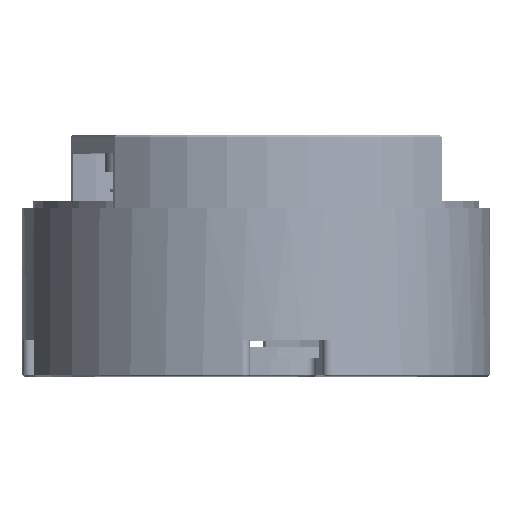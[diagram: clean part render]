
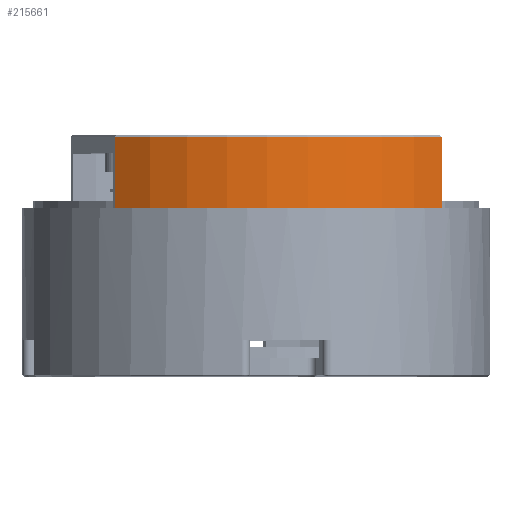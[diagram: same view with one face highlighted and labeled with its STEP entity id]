
A CAD part, top view. The second image highlights one B-rep face of the part: STEP entity #215661.
In plain terms, the highlighted cylindrical face has radius 64 mm (diameter 128 mm), a partial arc.
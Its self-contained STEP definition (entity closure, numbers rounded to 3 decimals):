
#35504 = DIRECTION ( 'NONE',  ( 1., 0., 0. ) ) ;
#39166 = DIRECTION ( 'NONE',  ( 0., 0., 1. ) ) ;
#52981 = LINE ( 'NONE', #725221, #229598 ) ;
#61247 = DIRECTION ( 'NONE',  ( 0., 0., -1. ) ) ;
#75888 = ORIENTED_EDGE ( 'NONE', *, *, #182076, .F. ) ;
#103905 = ORIENTED_EDGE ( 'NONE', *, *, #266782, .T. ) ;
#110484 = FACE_OUTER_BOUND ( 'NONE', #326164, .T. ) ;
#111428 = VECTOR ( 'NONE', #678134, 1000. ) ;
#173086 = AXIS2_PLACEMENT_3D ( 'NONE', #295241, #61247, #684284 ) ;
#178332 = CYLINDRICAL_SURFACE ( 'NONE', #173086, 64. ) ;
#182076 = EDGE_CURVE ( 'NONE', #433683, #495732, #372899, .T. ) ;
#208192 = DIRECTION ( 'NONE',  ( 0., 0., -1. ) ) ;
#215661 = ADVANCED_FACE ( 'NONE', ( #110484 ), #178332, .T. ) ;
#229598 = VECTOR ( 'NONE', #208192, 1000. ) ;
#243946 = CIRCLE ( 'NONE', #593620, 64. ) ;
#263919 = VERTEX_POINT ( 'NONE', #743370 ) ;
#266782 = EDGE_CURVE ( 'NONE', #433683, #483494, #621512, .T. ) ;
#295241 = CARTESIAN_POINT ( 'NONE',  ( 0., 0., 5. ) ) ;
#302458 = EDGE_CURVE ( 'NONE', #483494, #263919, #243946, .T. ) ;
#303947 = CARTESIAN_POINT ( 'NONE',  ( 0., 0., 0.5 ) ) ;
#314505 = CARTESIAN_POINT ( 'NONE',  ( -61.44, 17.919, 20. ) ) ;
#326164 = EDGE_LOOP ( 'NONE', ( #103905, #562225, #530488, #75888 ) ) ;
#336789 = AXIS2_PLACEMENT_3D ( 'NONE', #673337, #39166, #35504 ) ;
#372899 = CIRCLE ( 'NONE', #336789, 64. ) ;
#428514 = DIRECTION ( 'NONE',  ( 0., 0., 1. ) ) ;
#433683 = VERTEX_POINT ( 'NONE', #525585 ) ;
#483494 = VERTEX_POINT ( 'NONE', #717057 ) ;
#490540 = EDGE_CURVE ( 'NONE', #495732, #263919, #52981, .T. ) ;
#495732 = VERTEX_POINT ( 'NONE', #314505 ) ;
#525585 = CARTESIAN_POINT ( 'NONE',  ( 17.228, 61.638, 20. ) ) ;
#530488 = ORIENTED_EDGE ( 'NONE', *, *, #490540, .F. ) ;
#538094 = DIRECTION ( 'NONE',  ( 1., 0., 0. ) ) ;
#562225 = ORIENTED_EDGE ( 'NONE', *, *, #302458, .T. ) ;
#593620 = AXIS2_PLACEMENT_3D ( 'NONE', #303947, #428514, #538094 ) ;
#621512 = LINE ( 'NONE', #734780, #111428 ) ;
#673337 = CARTESIAN_POINT ( 'NONE',  ( 0., 0., 20. ) ) ;
#678134 = DIRECTION ( 'NONE',  ( 0., 0., -1. ) ) ;
#684284 = DIRECTION ( 'NONE',  ( -1., 0., 0. ) ) ;
#717057 = CARTESIAN_POINT ( 'NONE',  ( 17.228, 61.638, 0.5 ) ) ;
#725221 = CARTESIAN_POINT ( 'NONE',  ( -61.44, 17.919, 20. ) ) ;
#734780 = CARTESIAN_POINT ( 'NONE',  ( 17.228, 61.638, 20. ) ) ;
#743370 = CARTESIAN_POINT ( 'NONE',  ( -61.44, 17.919, 0.5 ) ) ;
